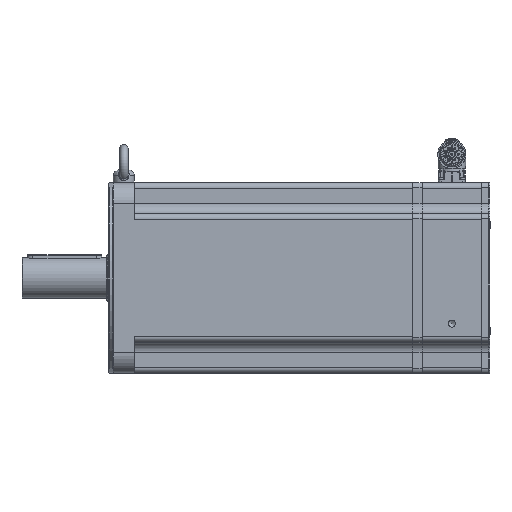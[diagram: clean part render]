
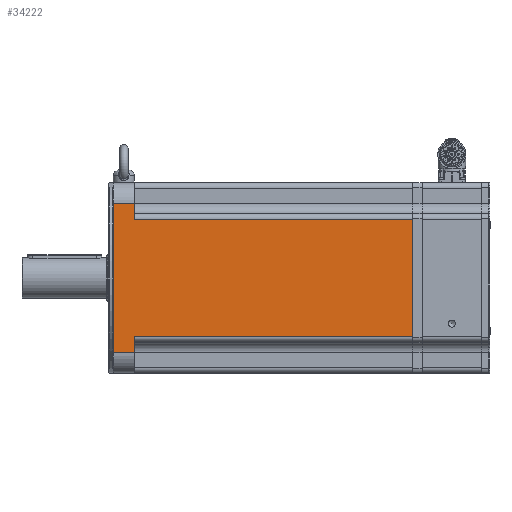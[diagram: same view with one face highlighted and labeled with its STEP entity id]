
A CAD part, left-side view. The second image highlights one B-rep face of the part: STEP entity #34222.
In plain terms, the highlighted planar face has unit normal (-1, 0, 0) as drawn and (1, 0, 0) by its records, which use the part's own axes.
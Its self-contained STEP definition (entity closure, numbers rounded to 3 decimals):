
#551=PLANE('',#36404);
#2867=LINE('',#49856,#4468);
#2881=LINE('',#49937,#4482);
#2888=LINE('',#49988,#4489);
#2896=LINE('',#50012,#4497);
#2897=LINE('',#50013,#4498);
#2898=LINE('',#50015,#4499);
#2899=LINE('',#50017,#4500);
#2900=LINE('',#50018,#4501);
#4468=VECTOR('',#40306,1000.);
#4482=VECTOR('',#40382,1000.);
#4489=VECTOR('',#40435,1000.);
#4497=VECTOR('',#40459,1000.);
#4498=VECTOR('',#40460,1000.);
#4499=VECTOR('',#40461,1000.);
#4500=VECTOR('',#40462,1000.);
#4501=VECTOR('',#40463,1000.);
#8396=ORIENTED_EDGE('',*,*,#14019,.F.);
#8397=ORIENTED_EDGE('',*,*,#14089,.T.);
#8398=ORIENTED_EDGE('',*,*,#14055,.F.);
#8399=ORIENTED_EDGE('',*,*,#14090,.T.);
#8400=ORIENTED_EDGE('',*,*,#14091,.F.);
#8401=ORIENTED_EDGE('',*,*,#14092,.T.);
#8402=ORIENTED_EDGE('',*,*,#14077,.F.);
#8403=ORIENTED_EDGE('',*,*,#14093,.T.);
#14019=EDGE_CURVE('',#17084,#17085,#2867,.T.);
#14055=EDGE_CURVE('',#17120,#17121,#2881,.T.);
#14077=EDGE_CURVE('',#17142,#17143,#2888,.T.);
#14089=EDGE_CURVE('',#17084,#17121,#2896,.F.);
#14090=EDGE_CURVE('',#17120,#17150,#2897,.T.);
#14091=EDGE_CURVE('',#17151,#17150,#2898,.T.);
#14092=EDGE_CURVE('',#17151,#17143,#2899,.F.);
#14093=EDGE_CURVE('',#17142,#17085,#2900,.T.);
#17084=VERTEX_POINT('',#49855);
#17085=VERTEX_POINT('',#49857);
#17120=VERTEX_POINT('',#49936);
#17121=VERTEX_POINT('',#49938);
#17142=VERTEX_POINT('',#49989);
#17143=VERTEX_POINT('',#49990);
#17150=VERTEX_POINT('',#50014);
#17151=VERTEX_POINT('',#50016);
#20111=EDGE_LOOP('',(#8396,#8397,#8398,#8399,#8400,#8401,#8402,#8403));
#22135=FACE_BOUND('',#20111,.T.);
#34222=ADVANCED_FACE('',(#22135),#551,.T.);
#36404=AXIS2_PLACEMENT_3D('',#50011,#40457,#40458);
#40306=DIRECTION('',(0.,0.,-1.));
#40382=DIRECTION('',(0.,0.,-1.));
#40435=DIRECTION('',(0.,0.,-1.));
#40457=DIRECTION('',(1.,0.,0.));
#40458=DIRECTION('',(0.,1.,0.));
#40459=DIRECTION('',(0.,1.,0.));
#40460=DIRECTION('',(0.,-1.,0.));
#40461=DIRECTION('',(0.,0.,1.));
#40462=DIRECTION('',(0.,-1.,0.));
#40463=DIRECTION('',(0.,1.,0.));
#49855=CARTESIAN_POINT('',(90.,283.8,55.2));
#49856=CARTESIAN_POINT('',(90.,283.8,-90.));
#49857=CARTESIAN_POINT('',(90.,283.8,-55.2));
#49936=CARTESIAN_POINT('',(90.,21.3,70.));
#49937=CARTESIAN_POINT('',(90.,21.3,-90.));
#49938=CARTESIAN_POINT('',(90.,21.3,55.2));
#49988=CARTESIAN_POINT('',(90.,21.3,-90.));
#49989=CARTESIAN_POINT('',(90.,21.3,-55.2));
#49990=CARTESIAN_POINT('',(90.,21.3,-70.));
#50011=CARTESIAN_POINT('',(90.,488.463,-90.));
#50012=CARTESIAN_POINT('',(90.,488.463,55.2));
#50013=CARTESIAN_POINT('',(90.,488.463,70.));
#50014=CARTESIAN_POINT('',(90.,1.3,70.));
#50015=CARTESIAN_POINT('',(90.,1.3,-90.));
#50016=CARTESIAN_POINT('',(90.,1.3,-70.));
#50017=CARTESIAN_POINT('',(90.,488.463,-70.));
#50018=CARTESIAN_POINT('',(90.,488.463,-55.2));
